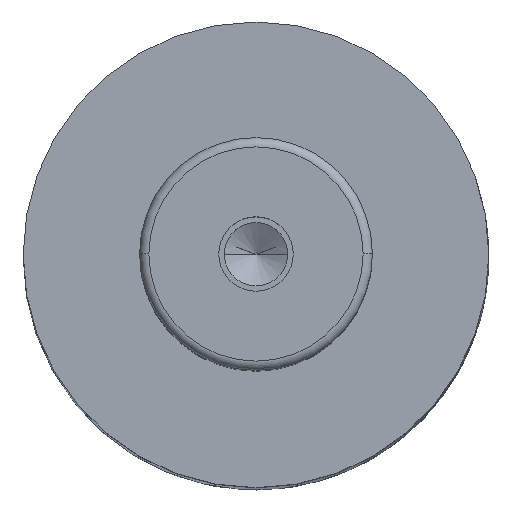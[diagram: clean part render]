
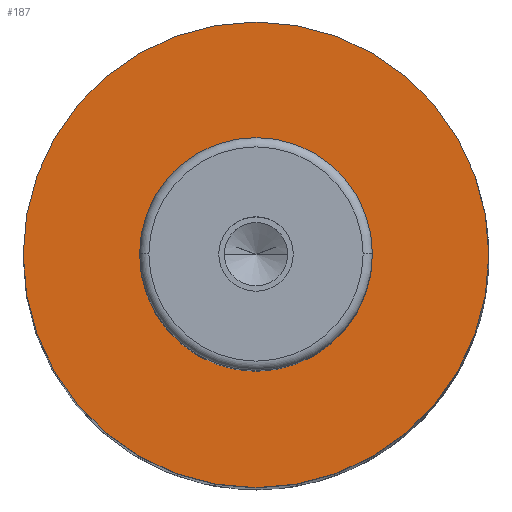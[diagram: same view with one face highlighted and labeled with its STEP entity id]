
A CAD part, top view. The second image highlights one B-rep face of the part: STEP entity #187.
In plain terms, the highlighted planar face has unit normal (0, 0, 1).
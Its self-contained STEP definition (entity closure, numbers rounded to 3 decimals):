
#109=PLANE('',#1002);
#132=FACE_BOUND('',#299,.T.);
#133=FACE_BOUND('',#300,.T.);
#187=ADVANCED_FACE('',(#132,#133),#109,.T.);
#299=EDGE_LOOP('',(#463,#464));
#300=EDGE_LOOP('',(#465,#466));
#367=CIRCLE('',#996,12.5);
#368=CIRCLE('',#998,12.5);
#369=CIRCLE('',#1000,25.);
#370=CIRCLE('',#1001,25.);
#463=ORIENTED_EDGE('',*,*,#766,.F.);
#464=ORIENTED_EDGE('',*,*,#767,.F.);
#465=ORIENTED_EDGE('',*,*,#765,.T.);
#466=ORIENTED_EDGE('',*,*,#763,.T.);
#676=VERTEX_POINT('',#1435);
#677=VERTEX_POINT('',#1437);
#678=VERTEX_POINT('',#1443);
#679=VERTEX_POINT('',#1444);
#763=EDGE_CURVE('',#677,#676,#367,.T.);
#765=EDGE_CURVE('',#676,#677,#368,.T.);
#766=EDGE_CURVE('',#678,#679,#369,.T.);
#767=EDGE_CURVE('',#679,#678,#370,.T.);
#996=AXIS2_PLACEMENT_3D('',#1436,#1150,#1151);
#998=AXIS2_PLACEMENT_3D('',#1440,#1155,#1156);
#1000=AXIS2_PLACEMENT_3D('',#1442,#1159,#1160);
#1001=AXIS2_PLACEMENT_3D('',#1445,#1161,#1162);
#1002=AXIS2_PLACEMENT_3D('',#1446,#1163,#1164);
#1150=DIRECTION('',(0.,0.,-1.));
#1151=DIRECTION('',(0.,1.,0.));
#1155=DIRECTION('',(0.,0.,-1.));
#1156=DIRECTION('',(0.,-1.,0.));
#1159=DIRECTION('',(0.,0.,-1.));
#1160=DIRECTION('',(0.,1.,0.));
#1161=DIRECTION('',(0.,0.,-1.));
#1162=DIRECTION('',(0.,-1.,0.));
#1163=DIRECTION('',(0.,0.,1.));
#1164=DIRECTION('',(0.,-1.,0.));
#1435=CARTESIAN_POINT('',(-12.5,0.,142.));
#1436=CARTESIAN_POINT('',(0.,0.,142.));
#1437=CARTESIAN_POINT('',(12.5,0.,142.));
#1440=CARTESIAN_POINT('',(0.,0.,142.));
#1442=CARTESIAN_POINT('',(0.,0.,142.));
#1443=CARTESIAN_POINT('',(25.,0.,142.));
#1444=CARTESIAN_POINT('',(-25.,0.,142.));
#1445=CARTESIAN_POINT('',(0.,0.,142.));
#1446=CARTESIAN_POINT('',(0.,0.,142.));
